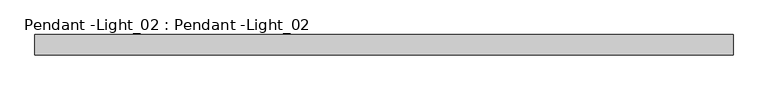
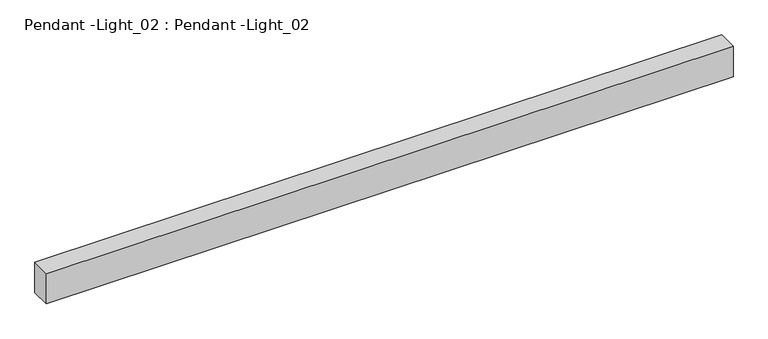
"""IFC4 building model written with IfcOpenShell, lengths in millimetres: light fixture geometry, Pendant -Light_02 : Pendant -Light_02."""

from ifc_helpers import new_model, si_unit, frame, origin, place, context, project, spatial, polyline, outline, extrude, faceted_brep, source, transform, mapped, element, save


def pendant_light_02_pendant_light_02_69d9757e(model_context):
    return source(origin(), model_context, "Body", "SolidModel", [
        faceted_brep([(860.0, 25.0, 1580.0), (-860.0, 25.0, 1580.0), (-860.0, -25.0, 1580.0), (860.0, -25.0, 1580.0), (860.0, 25.0, 1500.0), (860.0, -25.0, 1500.0), (-860.0, -25.0, 1500.0), (-860.0, 25.0, 1500.0), (-855.0, -20.0, 1500.0), (855.0, -20.0, 1500.0), (855.0, 20.0, 1500.0), (-855.0, 20.0, 1500.0), (855.0, -20.0, 1560.0), (-855.0, -20.0, 1560.0), (855.0, 20.0, 1560.0), (-855.0, 20.0, 1560.0)], [[[0, 1, 2, 3]], [[4, 5, 6, 7], [8, 9, 10, 11]], [[1, 0, 4, 7]], [[2, 1, 7, 6]], [[3, 2, 6, 5]], [[0, 3, 5, 4]], [[12, 9, 8, 13]], [[14, 15, 11, 10]], [[12, 13, 15, 14]], [[13, 8, 11, 15]], [[9, 12, 14, 10]]]),
        extrude(outline(polyline([(-855.0, -20.0), (-855.0, 20.0), (855.0, 20.0), (855.0, -20.0), (-855.0, -20.0)])), frame((0.0, 0.0, 1500.0), z_axis=(0.0, 0.0, 1.0), x_axis=(1.0, 0.0, 0.0)), (0.0, 0.0, 1.0), 3.3064742),
    ])


if __name__ == "__main__":
    model = new_model("IFC4")
    model_context = context("Model", 3, world=origin())
    ifc_project = project(units=[si_unit("LENGTHUNIT", "METRE", prefix="MILLI")], contexts=[model_context])
    site = spatial("IfcSite", under=ifc_project)
    building = spatial("IfcBuilding", under=site)
    placement = place(None, origin())
    pendant_light_02_pendant_light_02_shape = pendant_light_02_pendant_light_02_69d9757e(model_context)
    element("IfcLightFixture", 1, ObjectType="Pendant -Light_02 : Pendant -Light_02", at=placement, inside=building, context=model_context, shape_type="MappedRepresentation", body=[
        mapped(pendant_light_02_pendant_light_02_shape, transform((0.0, 0.0, 0.0), x_axis=(1.0, 0.0, 0.0), y_axis=(0.0, 1.0, 0.0), z_axis=(0.0, 0.0, 1.0))),
    ])
    save(model, "model.ifc")
